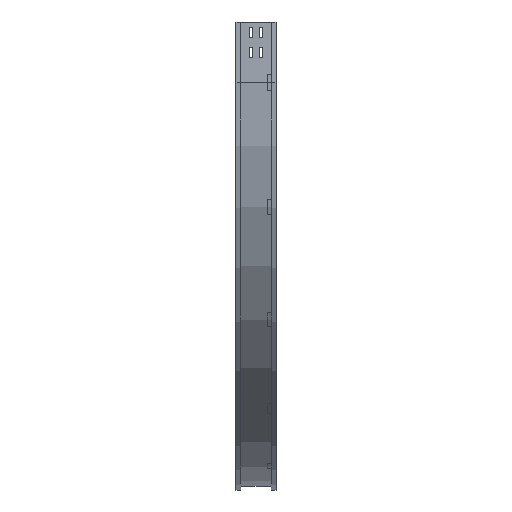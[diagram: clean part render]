
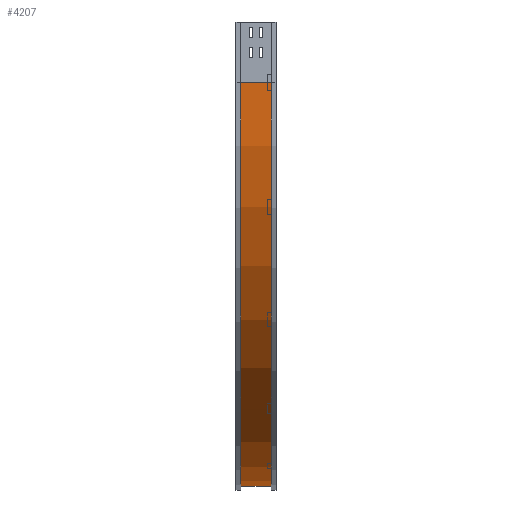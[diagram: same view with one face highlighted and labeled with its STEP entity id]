
A CAD part, left-side view. The second image highlights one B-rep face of the part: STEP entity #4207.
In plain terms, the highlighted cylindrical face has radius 1000 mm (diameter 2000 mm), a partial arc.
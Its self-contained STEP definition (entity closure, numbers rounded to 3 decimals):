
#24 = ORIENTED_EDGE ( 'NONE', *, *, #403, .F. ) ;
#63 = VERTEX_POINT ( 'NONE', #3413 ) ;
#144 = CARTESIAN_POINT ( 'NONE',  ( 1009., 88., -150. ) ) ;
#252 = CARTESIAN_POINT ( 'NONE',  ( 1009., 12., -150. ) ) ;
#259 = EDGE_CURVE ( 'NONE', #1877, #4001, #1848, .T. ) ;
#362 = EDGE_LOOP ( 'NONE', ( #24, #3528, #1835, #2836 ) ) ;
#371 = FACE_OUTER_BOUND ( 'NONE', #362, .T. ) ;
#403 = EDGE_CURVE ( 'NONE', #733, #4001, #1937, .T. ) ;
#581 = CARTESIAN_POINT ( 'NONE',  ( 1009., 12., -1150. ) ) ;
#733 = VERTEX_POINT ( 'NONE', #3259 ) ;
#938 = CARTESIAN_POINT ( 'NONE',  ( 1009., 88., -1150. ) ) ;
#1018 = CARTESIAN_POINT ( 'NONE',  ( 9., 12., -150. ) ) ;
#1100 = DIRECTION ( 'NONE',  ( -1., 0., 0. ) ) ;
#1124 = AXIS2_PLACEMENT_3D ( 'NONE', #252, #2331, #3379 ) ;
#1364 = VECTOR ( 'NONE', #2922, 1000. ) ;
#1423 = VECTOR ( 'NONE', #2414, 1000. ) ;
#1834 = DIRECTION ( 'NONE',  ( 0., -1., 0. ) ) ;
#1835 = ORIENTED_EDGE ( 'NONE', *, *, #3929, .T. ) ;
#1848 = LINE ( 'NONE', #2506, #1364 ) ;
#1877 = VERTEX_POINT ( 'NONE', #938 ) ;
#1937 = CIRCLE ( 'NONE', #1124, 1000. ) ;
#2086 = AXIS2_PLACEMENT_3D ( 'NONE', #3434, #4473, #4451 ) ;
#2331 = DIRECTION ( 'NONE',  ( 0., -1., 0. ) ) ;
#2414 = DIRECTION ( 'NONE',  ( 0., -1., 0. ) ) ;
#2506 = CARTESIAN_POINT ( 'NONE',  ( 1009., 12., -1150. ) ) ;
#2753 = LINE ( 'NONE', #1018, #1423 ) ;
#2836 = ORIENTED_EDGE ( 'NONE', *, *, #259, .T. ) ;
#2871 = EDGE_CURVE ( 'NONE', #63, #733, #2753, .T. ) ;
#2922 = DIRECTION ( 'NONE',  ( 0., -1., 0. ) ) ;
#3002 = AXIS2_PLACEMENT_3D ( 'NONE', #144, #1834, #1100 ) ;
#3049 = CYLINDRICAL_SURFACE ( 'NONE', #2086, 1000. ) ;
#3259 = CARTESIAN_POINT ( 'NONE',  ( 9., 12., -150. ) ) ;
#3379 = DIRECTION ( 'NONE',  ( -1., 0., 0. ) ) ;
#3413 = CARTESIAN_POINT ( 'NONE',  ( 9., 88., -150. ) ) ;
#3434 = CARTESIAN_POINT ( 'NONE',  ( 1009., 0., -150. ) ) ;
#3528 = ORIENTED_EDGE ( 'NONE', *, *, #2871, .F. ) ;
#3738 = CIRCLE ( 'NONE', #3002, 1000. ) ;
#3929 = EDGE_CURVE ( 'NONE', #63, #1877, #3738, .T. ) ;
#4001 = VERTEX_POINT ( 'NONE', #581 ) ;
#4207 = ADVANCED_FACE ( 'NONE', ( #371 ), #3049, .T. ) ;
#4451 = DIRECTION ( 'NONE',  ( 0., 0., -1. ) ) ;
#4473 = DIRECTION ( 'NONE',  ( 0., -1., 0. ) ) ;
